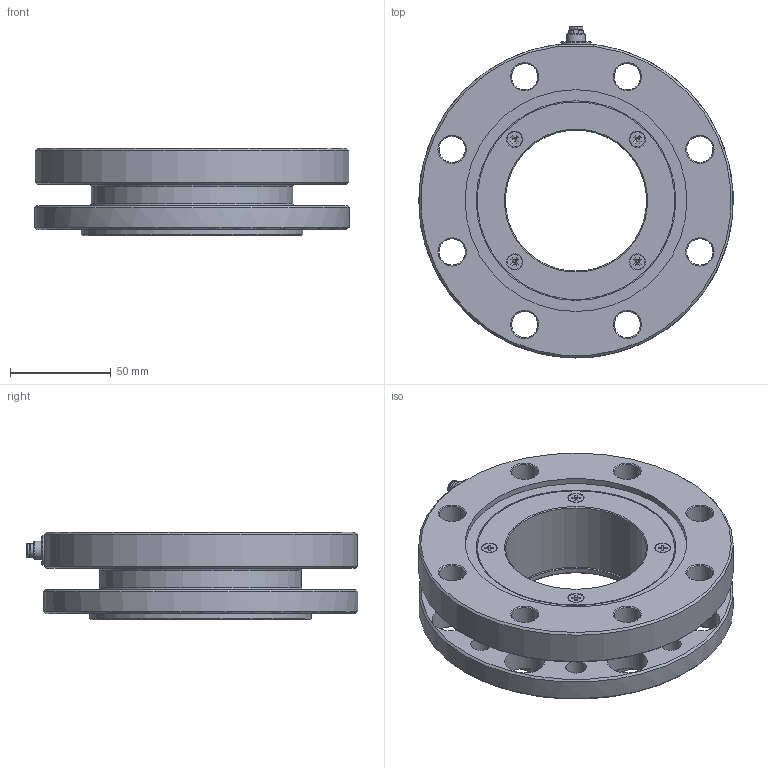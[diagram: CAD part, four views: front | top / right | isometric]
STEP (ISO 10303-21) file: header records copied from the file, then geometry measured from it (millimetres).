
FILE_DESCRIPTION( ( 'Unknown' ), '1' );
FILE_NAME( 'I:/DATENABLAGE/STP-DATEN FÜR INTERNET/DF-30/STP/2268-z01_doc-00023505.stp', 'Unknown', ( 'Unknown' ), ( 'Unknown' ), 'PSStep 17.0.49', 'Unknown', ' ' );
FILE_SCHEMA( ( 'AUTOMOTIVE_DESIGN { 1 0 10303 214 1 1 1 1 }' ) );
Length unit declared in the file: millimetre
Products named in the file (13): Assem1; 2268-001_doc-00023488; 2268-002_DOC-00023509; 2268-003_DOC-00023523; senkschraube din 965-m3x6-h; senkschraube din 965-m3x6-h-oa0; senkschraube din 965-m3x6-h-oa1; senkschraube din 965-m3x6-h-oa2; senkschraube din 965-m4x8-h; senkschraube din 965-m4x8-h-oa3; senkschraube din 965-m4x8-h-oa4; senkschraube din 965-m4x8-h-oa5; 09-0423-00-07_1_1_1_1[15713]
Assembly tree (12 placements, depth 2):
  Assem1
    2268-001_doc-00023488
    2268-002_DOC-00023509
    2268-003_DOC-00023523
    senkschraube din 965-m3x6-h
    senkschraube din 965-m3x6-h-oa0
    senkschraube din 965-m3x6-h-oa1
    senkschraube din 965-m3x6-h-oa2
    senkschraube din 965-m4x8-h
    senkschraube din 965-m4x8-h-oa3
    senkschraube din 965-m4x8-h-oa4
    senkschraube din 965-m4x8-h-oa5
    09-0423-00-07_1_1_1_1[15713]
Bounding box: 156 x 164.6 x 43.5 mm (x, y, z)
Volume: 365166.1 mm3; surface area: 127040.3 mm2
Topology: 12 solids, 12 shells, 489 faces, 1241 edges, 794 vertices
Faces by surface type: plane 192, cylinder 163, cone 110, torus 15, bspline 9
Full cylindrical faces by diameter (mm): 0.5 x7, 0.7 x7, 1 x7, 2.387 x4, 2.5 x4, 3 x4, 3.141 x4, 3.2 x4, 3.3 x4, 4 x4, 4.3 x4, 5.5 x1, 5.6 x4, 6.1 x1, 7.5 x4, 8.387 x1, 9 x1, 9.65 x1, 10.2 x8, 11.459 x2, 12 x1, 13 x8, 15 x1, 20 x8, 70 x2, 77 x2, 95 x1, 98 x1, 99 x1, 100 x1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
Entity records: 17355 total; most frequent: CARTESIAN_POINT 2766, DIRECTION 2256, ORIENTED_EDGE 1770, AXIS2_PLACEMENT_3D 915, EDGE_CURVE 885, EDGE_LOOP 824, VERTEX_POINT 687, FACE_OUTER_BOUND 618
